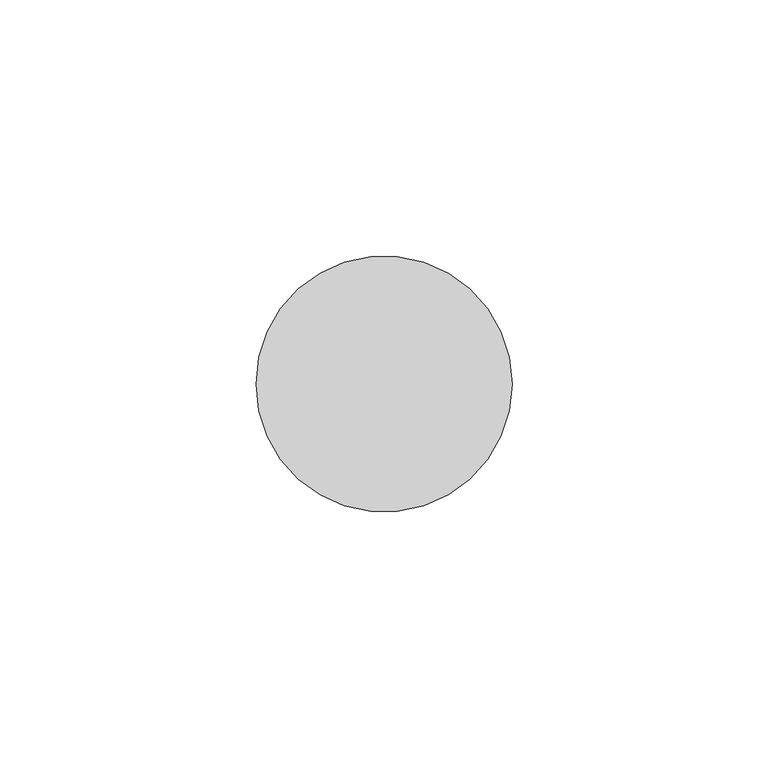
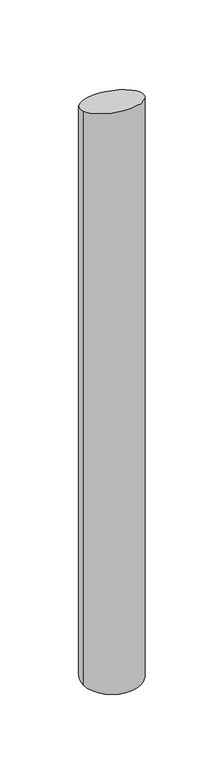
"""IFC4 building model written with IfcOpenShell, lengths in millimetres: member geometry, Импост круглого сечения : Радиус 25мм."""

from ifc_helpers import new_model, si_unit, frame, origin, place, context, project, spatial, circle_curve, ellipse_curve, source, transform, mapped, element, save
from ifc_brep_helpers import plane_surface, cylinder_surface, advanced_brep


def member_add3a86c(model_context):
    return source(origin(), model_context, "Body", "AdvancedBrep", [
        advanced_brep(
        [(0.0, 0.0, -525.0), (-50.0, 0.0, -525.0), (-50.0, 0.0, 0.0), (0.0, 0.0, 0.0)],
        [
            (0, 1, circle_curve(frame((-25.0, 0.0, -525.0), z_axis=(0.0, 0.0, -1.0), x_axis=(1.0, 0.0, 0.0)), 25.0)),
            (1, 0, circle_curve(frame((-25.0, 0.0, -525.0), z_axis=(0.0, 0.0, -1.0), x_axis=(1.0, 0.0, 0.0)), 25.0)),
            (2, 3, ellipse_curve(frame((-25.0, 0.0, 0.0), z_axis=(0.0, -0.3166128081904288, -0.9485548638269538), x_axis=(0.0, -0.9485548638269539, 0.3166128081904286)), 26.3558819, 25.0)),
            (3, 0),
            (1, 2),
            (3, 2, ellipse_curve(frame((-25.0, 0.0, 0.0), z_axis=(0.0, -0.3166128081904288, -0.9485548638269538), x_axis=(0.0, -0.9485548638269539, 0.3166128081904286)), 26.3558819, 25.0)),
        ],
        [
            plane_surface(frame((0.0, -50.0, -525.0), z_axis=(0.0, 0.0, -1.0), x_axis=(-1.0, 0.0, 0.0))),
            cylinder_surface(frame((-25.0, 0.0, 0.0), z_axis=(0.0, 0.0, 1.0), x_axis=(1.0, 0.0, 0.0)), 25.0),
            plane_surface(frame((-304.8, 0.0, 0.0), z_axis=(0.0, 0.3166128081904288, 0.9485548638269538), x_axis=(0.0, 0.9485548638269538, -0.3166128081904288))),
        ],
        [
            (0, [[1, 2]]),
            (1, [[3, 4, -2, 5]]),
            (1, [[6, -5, -1, -4]]),
            (2, [[-3, -6]]),
        ],
    ),
    ])


if __name__ == "__main__":
    model = new_model("IFC4")
    model_context = context("Model", 3, world=origin())
    ifc_project = project(units=[si_unit("LENGTHUNIT", "METRE", prefix="MILLI")], contexts=[model_context])
    site = spatial("IfcSite", under=ifc_project)
    building = spatial("IfcBuilding", under=site)
    placement = place(None, origin())
    member_shape = member_add3a86c(model_context)
    element("IfcMember", 1, ObjectType="Импост круглого сечения : Радиус 25мм", at=placement, inside=building, context=model_context, shape_type="MappedRepresentation", body=[
        mapped(member_shape, transform((0.0, 0.0, 0.0), x_axis=(1.0, 0.0, 0.0), y_axis=(0.0, 1.0, 0.0), z_axis=(0.0, 0.0, 1.0))),
    ])
    save(model, "model.ifc")
